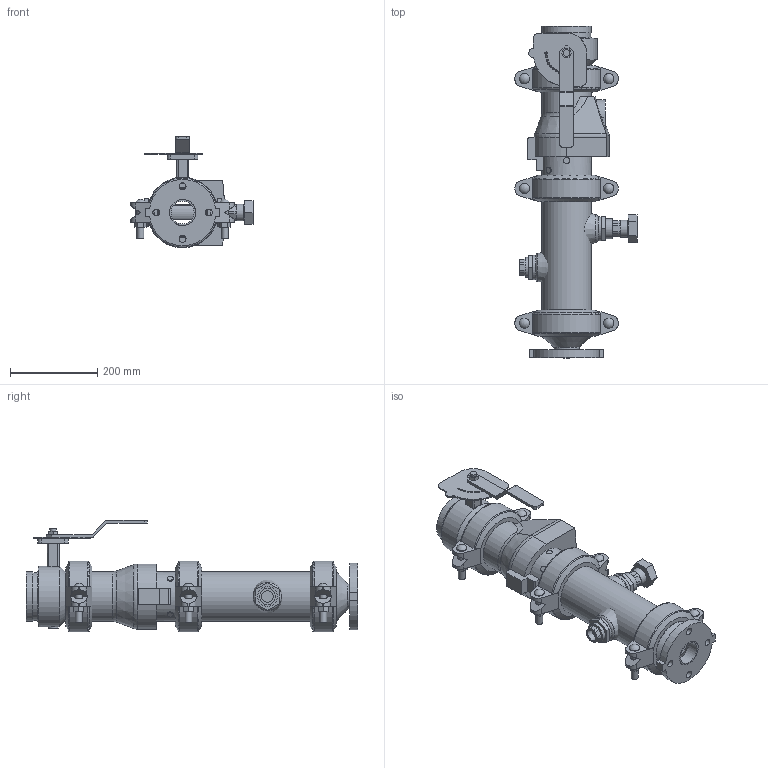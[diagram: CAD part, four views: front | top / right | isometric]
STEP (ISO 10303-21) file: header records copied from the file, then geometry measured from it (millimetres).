
FILE_DESCRIPTION(/* description */ ('VIC DVI PUMP DROP VERT S/380 (OGSxFLG) (S/924-1.25)','CAx-IF Rec.Pracs.---Representation and Presentation of Product Manufacturing Information (PMI)---4.0---2014-10-13'),/* implementation_level */ '2;1');
FILE_NAME(/* name */ 'C:\Users\Public\Documents\Victaulic.Temp\A765\Victaulic_IPS_Vertical DVI_CL 150_Series 380 (OGSxFLG)_924 (1.25)_04.0x02.0 (100x50).stp',/* time_stamp */ '2022-07-25T11:10:32+02:00',/* author */ ('Vjadhav'),/* organization */ ('Victaulic'),/* preprocessor_version */ 'ST-DEVELOPER v18',/* originating_system */ 'Autodesk Inventor 2020',/* authorisation */ '');
FILE_SCHEMA (('AP242_MANAGED_MODEL_BASED_3D_ENGINEERING_MIM_LF { 1 0 10303 442 1 1 4 }'));
Length unit declared in the file: inch
Products named in the file (9): 380_924 (1.25)-04.0x02.0; 741-02.0; 050-04.0x02.0; Pipe-04.0; 177N-04.0; 761-04.0; 779-04.0; 923-04.0x0.75; 924-04.0x01.25
Assembly tree (10 placements, depth 2):
  380_924 (1.25)-04.0x02.0
    741-02.0
    050-04.0x02.0
    177N-04.0  x3
    Pipe-04.0
    761-04.0
    779-04.0
    923-04.0x0.75
    924-04.0x01.25
Bounding box: 280.36 x 762 x 255.73 mm (x, y, z)
Volume: 5864424 mm3; surface area: 1054333.8 mm2
Topology: 10 solids, 12 shells, 603 faces, 1567 edges, 1046 vertices
Faces by surface type: plane 356, cylinder 201, cone 20, torus 18, sphere 6, bspline 2
Full cylindrical faces by diameter (mm): 4.826 x10, 8.636 x4, 13.716 x2, 14.986 x2, 15.875 x10, 21.336 x1, 22.86 x1, 23.495 x6, 26.67 x2, 38.608 x1, 42.164 x1, 45.974 x4, 48.514 x1, 52.502 x1, 55.118 x1, 55.626 x2, 57.15 x1, 60.325 x3, 101.6 x3, 102.26 x4, 110.084 x7, 114.3 x19, 139.7 x1
Entity records: 14365 total; most frequent: CARTESIAN_POINT 2828, DIRECTION 2377, ORIENTED_EDGE 2162, EDGE_CURVE 1081, AXIS2_PLACEMENT_3D 899, VERTEX_POINT 726, LINE 579, VECTOR 579
